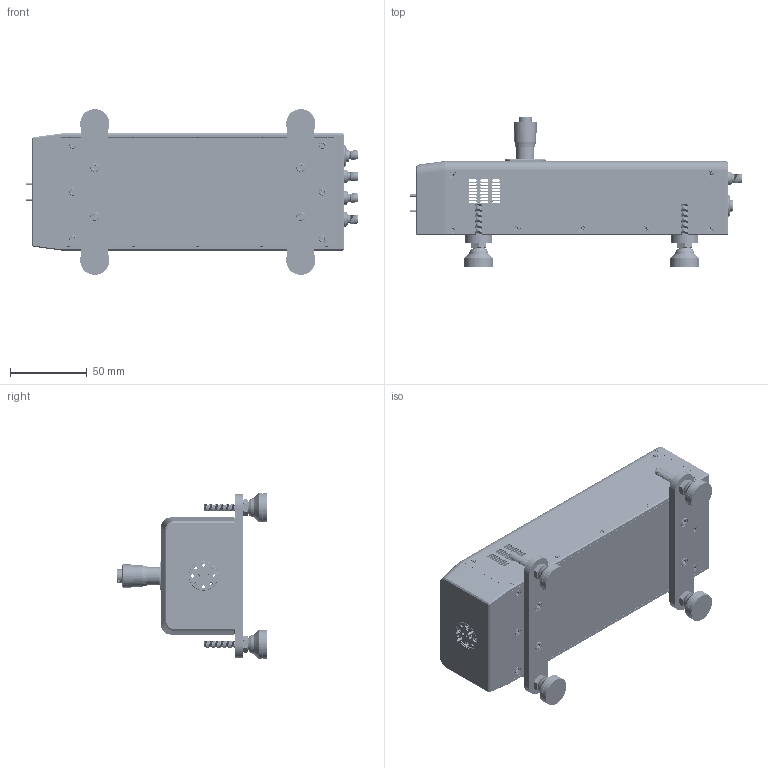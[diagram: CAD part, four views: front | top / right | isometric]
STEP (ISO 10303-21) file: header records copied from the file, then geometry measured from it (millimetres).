
FILE_DESCRIPTION (( 'STEP AP203' ), '1' );
FILE_NAME ('TO-SD-A-M-2.STEP', '2025-07-17T16:51:29', ( '' ), ( '' ), 'SwSTEP 2.0', 'SolidWorks 2021', '' );
FILE_SCHEMA (( 'CONFIG_CONTROL_DESIGN' ));
Products named in the file (1): TO-SD-A-M-2
Bounding box: 216.16 x 98.19 x 107.95 mm (x, y, z)
Volume: 233080.1 mm3; surface area: 163459.8 mm2
Topology: 121 solids, 121 shells, 5101 faces, 13418 edges, 8580 vertices
Faces by surface type: cylinder 2440, plane 1355, cone 817, bspline 465, sphere 16, torus 8
Entity records: 295278 total; most frequent: CARTESIAN_POINT 183180, ORIENTED_EDGE 26516, DIRECTION 19868, EDGE_CURVE 13258, VERTEX_POINT 8556, AXIS2_PLACEMENT_3D 7448, EDGE_LOOP 5574, FACE_OUTER_BOUND 5101
